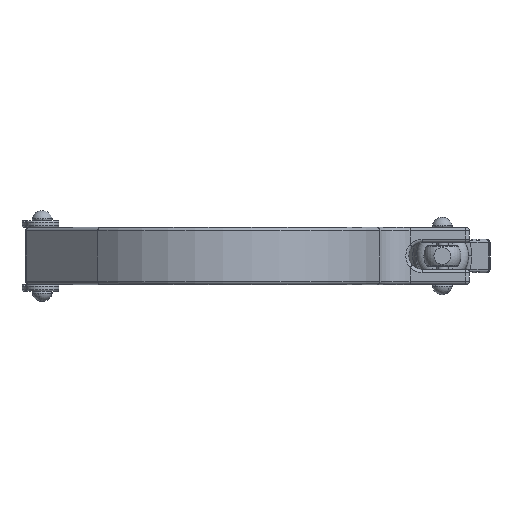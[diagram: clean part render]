
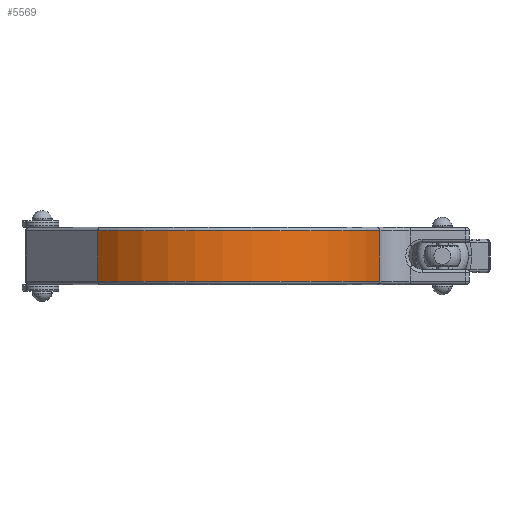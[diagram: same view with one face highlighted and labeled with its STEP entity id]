
A CAD part, front view. The second image highlights one B-rep face of the part: STEP entity #5569.
In plain terms, the highlighted cylindrical face has radius 50.5 mm (diameter 101 mm), a partial arc.
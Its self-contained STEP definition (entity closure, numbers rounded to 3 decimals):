
#848 = AXIS2_PLACEMENT_3D ( 'NONE', #5106, #14158, #6345 ) ;
#996 = LINE ( 'NONE', #2940, #7631 ) ;
#1069 = CIRCLE ( 'NONE', #848, 50.5 ) ;
#2124 = EDGE_CURVE ( 'NONE', #8896, #4689, #11578, .T. ) ;
#2383 = AXIS2_PLACEMENT_3D ( 'NONE', #9940, #13946, #12689 ) ;
#2940 = CARTESIAN_POINT ( 'NONE',  ( 46.402, 22.571, 8.5 ) ) ;
#4682 = CARTESIAN_POINT ( 'NONE',  ( 46.402, 22.571, -7.5 ) ) ;
#4689 = VERTEX_POINT ( 'NONE', #12140 ) ;
#5106 = CARTESIAN_POINT ( 'NONE',  ( 0., 42.5, -7.5 ) ) ;
#5381 = DIRECTION ( 'NONE',  ( 0., 0., -1. ) ) ;
#5569 = ADVANCED_FACE ( 'NONE', ( #9654 ), #10880, .T. ) ;
#5726 = ORIENTED_EDGE ( 'NONE', *, *, #11844, .T. ) ;
#6141 = ORIENTED_EDGE ( 'NONE', *, *, #2124, .T. ) ;
#6345 = DIRECTION ( 'NONE',  ( 1., 0., 0. ) ) ;
#7631 = VECTOR ( 'NONE', #5381, 1000. ) ;
#7857 = VERTEX_POINT ( 'NONE', #14161 ) ;
#7972 = EDGE_CURVE ( 'NONE', #8896, #14655, #996, .T. ) ;
#8185 = CARTESIAN_POINT ( 'NONE',  ( 46.402, 22.571, 7.5 ) ) ;
#8896 = VERTEX_POINT ( 'NONE', #8185 ) ;
#9051 = DIRECTION ( 'NONE',  ( 0., 0., -1. ) ) ;
#9654 = FACE_OUTER_BOUND ( 'NONE', #14559, .T. ) ;
#9940 = CARTESIAN_POINT ( 'NONE',  ( 0., 42.5, 8.5 ) ) ;
#10347 = LINE ( 'NONE', #15542, #11773 ) ;
#10610 = ORIENTED_EDGE ( 'NONE', *, *, #7972, .F. ) ;
#10880 = CYLINDRICAL_SURFACE ( 'NONE', #2383, 50.5 ) ;
#10933 = AXIS2_PLACEMENT_3D ( 'NONE', #14616, #15645, #14397 ) ;
#11578 = CIRCLE ( 'NONE', #10933, 50.5 ) ;
#11773 = VECTOR ( 'NONE', #9051, 1000. ) ;
#11844 = EDGE_CURVE ( 'NONE', #4689, #7857, #10347, .T. ) ;
#12140 = CARTESIAN_POINT ( 'NONE',  ( -37.484, 8.659, 7.5 ) ) ;
#12689 = DIRECTION ( 'NONE',  ( 1., 0., 0. ) ) ;
#13330 = EDGE_CURVE ( 'NONE', #7857, #14655, #1069, .T. ) ;
#13946 = DIRECTION ( 'NONE',  ( 0., 0., -1. ) ) ;
#14158 = DIRECTION ( 'NONE',  ( 0., 0., 1. ) ) ;
#14161 = CARTESIAN_POINT ( 'NONE',  ( -37.484, 8.659, -7.5 ) ) ;
#14397 = DIRECTION ( 'NONE',  ( 1., 0., 0. ) ) ;
#14559 = EDGE_LOOP ( 'NONE', ( #10610, #6141, #5726, #15236 ) ) ;
#14616 = CARTESIAN_POINT ( 'NONE',  ( 0., 42.5, 7.5 ) ) ;
#14655 = VERTEX_POINT ( 'NONE', #4682 ) ;
#15236 = ORIENTED_EDGE ( 'NONE', *, *, #13330, .T. ) ;
#15542 = CARTESIAN_POINT ( 'NONE',  ( -37.484, 8.659, 8.5 ) ) ;
#15645 = DIRECTION ( 'NONE',  ( 0., 0., -1. ) ) ;
